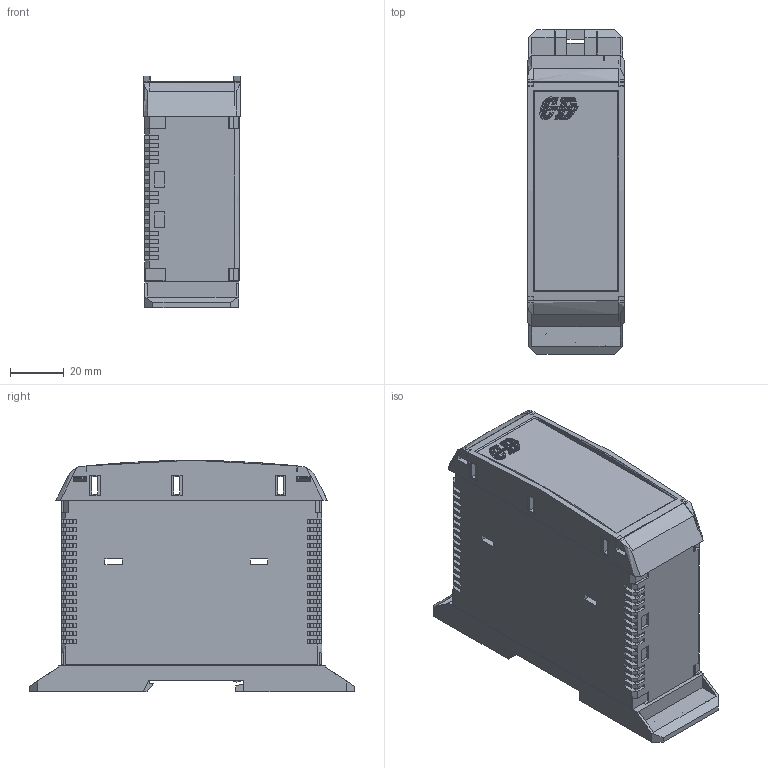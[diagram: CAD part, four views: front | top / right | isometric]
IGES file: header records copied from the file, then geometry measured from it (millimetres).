
Global section: file name: SR2; native system: AutoCAD 2015 - Italiano (Italian); preprocessor: Autodesk Translation Framework DWG producer (atf_dwg_producer); organization: unknown; date: 20191106.180704; units: millimetre
Bounding box: 36 x 120.7 x 86.19 mm (x, y, z)
Volume: 266573.3 mm3; surface area: 52982.8 mm2
Topology: 1 solids, 3 shells, 1913 faces, 5599 edges, 3702 vertices
Faces by surface type: bspline 1913
